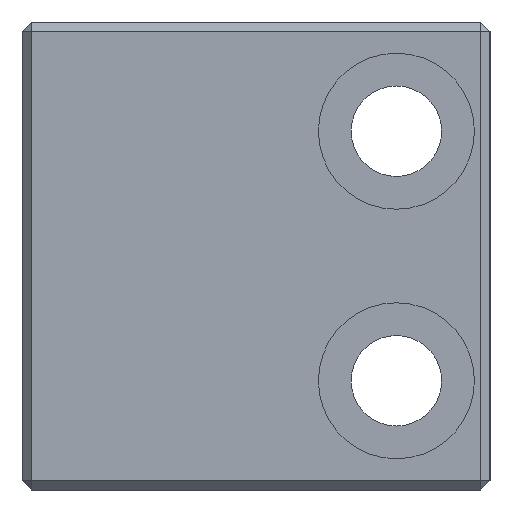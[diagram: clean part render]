
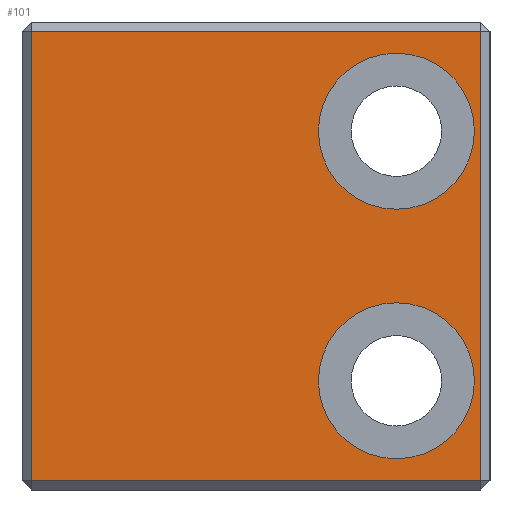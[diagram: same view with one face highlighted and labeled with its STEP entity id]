
A CAD part, left-side view. The second image highlights one B-rep face of the part: STEP entity #101.
In plain terms, the highlighted planar face has unit normal (-1, 0, 0).
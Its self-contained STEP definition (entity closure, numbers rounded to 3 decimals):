
#2 = VERTEX_POINT ( 'NONE', #914 ) ;
#38 = CARTESIAN_POINT ( 'NONE',  ( -9., -4.5, 1. ) ) ;
#57 = DIRECTION ( 'NONE',  ( 0., 0., 1. ) ) ;
#61 = AXIS2_PLACEMENT_3D ( 'NONE', #259, #470, #653 ) ;
#74 = CARTESIAN_POINT ( 'NONE',  ( -9., 7.5, 15. ) ) ;
#83 = VECTOR ( 'NONE', #114, 1000. ) ;
#87 = EDGE_LOOP ( 'NONE', ( #722, #702, #1160, #676 ) ) ;
#101 = ADVANCED_FACE ( 'NONE', ( #352, #642, #1025 ), #162, .F. ) ;
#114 = DIRECTION ( 'NONE',  ( 0., 0., -1. ) ) ;
#131 = VERTEX_POINT ( 'NONE', #183 ) ;
#141 = LINE ( 'NONE', #526, #380 ) ;
#150 = CARTESIAN_POINT ( 'NONE',  ( -9., -4.5, 3.5 ) ) ;
#158 = CARTESIAN_POINT ( 'NONE',  ( -9., -4.5, 6. ) ) ;
#162 = PLANE ( 'NONE',  #733 ) ;
#165 = ORIENTED_EDGE ( 'NONE', *, *, #529, .F. ) ;
#180 = VERTEX_POINT ( 'NONE', #667 ) ;
#183 = CARTESIAN_POINT ( 'NONE',  ( -9., 7.2, 14.7 ) ) ;
#239 = EDGE_CURVE ( 'NONE', #669, #2, #353, .T. ) ;
#248 = EDGE_CURVE ( 'NONE', #447, #651, #456, .T. ) ;
#259 = CARTESIAN_POINT ( 'NONE',  ( -9., -4.5, 3.5 ) ) ;
#278 = VECTOR ( 'NONE', #494, 1000. ) ;
#326 = DIRECTION ( 'NONE',  ( 0., 1., 0. ) ) ;
#352 = FACE_OUTER_BOUND ( 'NONE', #87, .T. ) ;
#353 = CIRCLE ( 'NONE', #884, 2.5 ) ;
#376 = LINE ( 'NONE', #1169, #83 ) ;
#380 = VECTOR ( 'NONE', #326, 1000. ) ;
#381 = DIRECTION ( 'NONE',  ( -1., 0., 0. ) ) ;
#393 = ORIENTED_EDGE ( 'NONE', *, *, #248, .F. ) ;
#447 = VERTEX_POINT ( 'NONE', #38 ) ;
#452 = LINE ( 'NONE', #723, #1188 ) ;
#456 = CIRCLE ( 'NONE', #61, 2.5 ) ;
#470 = DIRECTION ( 'NONE',  ( -1., 0., 0. ) ) ;
#494 = DIRECTION ( 'NONE',  ( 0., 0., 1. ) ) ;
#511 = CARTESIAN_POINT ( 'NONE',  ( -9., -4.5, 11.5 ) ) ;
#526 = CARTESIAN_POINT ( 'NONE',  ( -9., 7.5, 14.7 ) ) ;
#529 = EDGE_CURVE ( 'NONE', #651, #447, #1102, .T. ) ;
#538 = DIRECTION ( 'NONE',  ( -1., 0., 0. ) ) ;
#562 = DIRECTION ( 'NONE',  ( 0., -1., 0. ) ) ;
#586 = AXIS2_PLACEMENT_3D ( 'NONE', #150, #538, #921 ) ;
#642 = FACE_BOUND ( 'NONE', #674, .T. ) ;
#651 = VERTEX_POINT ( 'NONE', #158 ) ;
#653 = DIRECTION ( 'NONE',  ( 0., 0., 1. ) ) ;
#667 = CARTESIAN_POINT ( 'NONE',  ( -9., -7.2, 0.3 ) ) ;
#669 = VERTEX_POINT ( 'NONE', #730 ) ;
#670 = CARTESIAN_POINT ( 'NONE',  ( -9., -7.2, 15. ) ) ;
#674 = EDGE_LOOP ( 'NONE', ( #165, #393 ) ) ;
#676 = ORIENTED_EDGE ( 'NONE', *, *, #833, .T. ) ;
#684 = EDGE_LOOP ( 'NONE', ( #792, #714 ) ) ;
#702 = ORIENTED_EDGE ( 'NONE', *, *, #804, .T. ) ;
#714 = ORIENTED_EDGE ( 'NONE', *, *, #239, .F. ) ;
#722 = ORIENTED_EDGE ( 'NONE', *, *, #1078, .T. ) ;
#723 = CARTESIAN_POINT ( 'NONE',  ( -9., 7.5, 0.3 ) ) ;
#730 = CARTESIAN_POINT ( 'NONE',  ( -9., -4.5, 9. ) ) ;
#733 = AXIS2_PLACEMENT_3D ( 'NONE', #74, #1238, #1227 ) ;
#766 = DIRECTION ( 'NONE',  ( 0., 0., 1. ) ) ;
#768 = LINE ( 'NONE', #670, #278 ) ;
#792 = ORIENTED_EDGE ( 'NONE', *, *, #992, .F. ) ;
#804 = EDGE_CURVE ( 'NONE', #180, #1202, #768, .T. ) ;
#833 = EDGE_CURVE ( 'NONE', #131, #1234, #376, .T. ) ;
#866 = CARTESIAN_POINT ( 'NONE',  ( -9., -4.5, 11.5 ) ) ;
#869 = CARTESIAN_POINT ( 'NONE',  ( -9., 7.2, 0.3 ) ) ;
#884 = AXIS2_PLACEMENT_3D ( 'NONE', #866, #381, #766 ) ;
#914 = CARTESIAN_POINT ( 'NONE',  ( -9., -4.5, 14. ) ) ;
#915 = DIRECTION ( 'NONE',  ( -1., 0., 0. ) ) ;
#921 = DIRECTION ( 'NONE',  ( 0., 0., 1. ) ) ;
#926 = CIRCLE ( 'NONE', #1089, 2.5 ) ;
#933 = EDGE_CURVE ( 'NONE', #1202, #131, #141, .T. ) ;
#992 = EDGE_CURVE ( 'NONE', #2, #669, #926, .T. ) ;
#1025 = FACE_BOUND ( 'NONE', #684, .T. ) ;
#1078 = EDGE_CURVE ( 'NONE', #1234, #180, #452, .T. ) ;
#1089 = AXIS2_PLACEMENT_3D ( 'NONE', #511, #915, #57 ) ;
#1102 = CIRCLE ( 'NONE', #586, 2.5 ) ;
#1160 = ORIENTED_EDGE ( 'NONE', *, *, #933, .T. ) ;
#1169 = CARTESIAN_POINT ( 'NONE',  ( -9., 7.2, 15. ) ) ;
#1188 = VECTOR ( 'NONE', #562, 1000. ) ;
#1189 = CARTESIAN_POINT ( 'NONE',  ( -9., -7.2, 14.7 ) ) ;
#1202 = VERTEX_POINT ( 'NONE', #1189 ) ;
#1227 = DIRECTION ( 'NONE',  ( 0., 1., 0. ) ) ;
#1234 = VERTEX_POINT ( 'NONE', #869 ) ;
#1238 = DIRECTION ( 'NONE',  ( 1., 0., 0. ) ) ;
